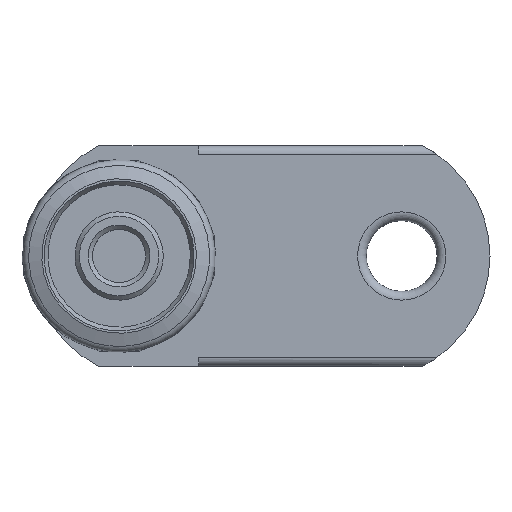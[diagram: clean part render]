
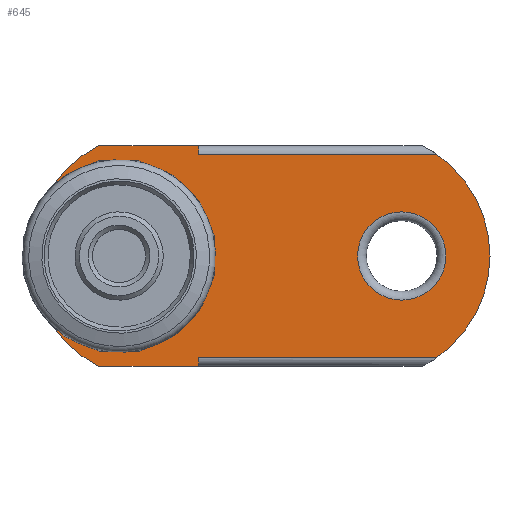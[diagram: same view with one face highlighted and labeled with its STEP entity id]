
A CAD part, left-side view. The second image highlights one B-rep face of the part: STEP entity #645.
In plain terms, the highlighted planar face has unit normal (-1, 0, 0) as drawn and (0, 0, -1) by its records, which use the part's own axes.
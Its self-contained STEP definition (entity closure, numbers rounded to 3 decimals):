
#45=LINE('',#1044,#69);
#48=LINE('',#1051,#72);
#58=LINE('',#1119,#82);
#59=LINE('',#1122,#83);
#61=LINE('',#1126,#85);
#65=LINE('',#1134,#89);
#69=VECTOR('',#821,26.984);
#72=VECTOR('',#828,1.);
#82=VECTOR('',#854,26.984);
#83=VECTOR('',#857,1.);
#85=VECTOR('',#861,11.305);
#89=VECTOR('',#869,11.305);
#126=FACE_BOUND('',#238,.T.);
#127=FACE_BOUND('',#239,.T.);
#183=FACE_OUTER_BOUND('',#237,.T.);
#237=EDGE_LOOP('',(#517,#518,#519,#520,#521,#522,#523,#524));
#238=EDGE_LOOP('',(#525));
#239=EDGE_LOOP('',(#526));
#302=CIRCLE('',#712,14.);
#303=CIRCLE('',#713,14.);
#304=CIRCLE('',#714,5.);
#305=CIRCLE('',#715,3.05);
#341=VERTEX_POINT('',#1029);
#343=VERTEX_POINT('',#1043);
#345=VERTEX_POINT('',#1049);
#357=VERTEX_POINT('',#1102);
#359=VERTEX_POINT('',#1117);
#360=VERTEX_POINT('',#1121);
#361=VERTEX_POINT('',#1125);
#363=VERTEX_POINT('',#1133);
#364=VERTEX_POINT('',#1136);
#365=VERTEX_POINT('',#1138);
#401=EDGE_CURVE('',#343,#341,#45,.T.);
#405=EDGE_CURVE('',#345,#343,#48,.T.);
#421=EDGE_CURVE('',#359,#357,#58,.T.);
#422=EDGE_CURVE('',#359,#360,#59,.T.);
#424=EDGE_CURVE('',#345,#361,#61,.T.);
#428=EDGE_CURVE('',#357,#341,#302,.T.);
#429=EDGE_CURVE('',#363,#360,#65,.T.);
#430=EDGE_CURVE('',#361,#363,#303,.T.);
#431=EDGE_CURVE('',#364,#364,#304,.T.);
#432=EDGE_CURVE('',#365,#365,#305,.T.);
#517=ORIENTED_EDGE('',*,*,#405,.T.);
#518=ORIENTED_EDGE('',*,*,#401,.T.);
#519=ORIENTED_EDGE('',*,*,#428,.F.);
#520=ORIENTED_EDGE('',*,*,#421,.F.);
#521=ORIENTED_EDGE('',*,*,#422,.T.);
#522=ORIENTED_EDGE('',*,*,#429,.F.);
#523=ORIENTED_EDGE('',*,*,#430,.F.);
#524=ORIENTED_EDGE('',*,*,#424,.F.);
#525=ORIENTED_EDGE('',*,*,#431,.F.);
#526=ORIENTED_EDGE('',*,*,#432,.T.);
#617=PLANE('',#711);
#645=ADVANCED_FACE('',(#183,#126,#127),#617,.F.);
#711=AXIS2_PLACEMENT_3D('',#1131,#865,#866);
#712=AXIS2_PLACEMENT_3D('',#1132,#867,#868);
#713=AXIS2_PLACEMENT_3D('',#1135,#870,#871);
#714=AXIS2_PLACEMENT_3D('',#1137,#872,#873);
#715=AXIS2_PLACEMENT_3D('',#1139,#874,#875);
#821=DIRECTION('',(0.,-1.,0.));
#828=DIRECTION('',(-1.,0.,0.));
#854=DIRECTION('',(0.,-1.,0.));
#857=DIRECTION('',(-1.,0.,0.));
#861=DIRECTION('',(0.,1.,0.));
#865=DIRECTION('center_axis',(0.,0.,1.));
#866=DIRECTION('ref_axis',(1.,0.,0.));
#867=DIRECTION('center_axis',(0.,0.,1.));
#868=DIRECTION('ref_axis',(0.893,0.45,0.));
#869=DIRECTION('',(0.,-1.,0.));
#870=DIRECTION('center_axis',(0.,0.,1.));
#871=DIRECTION('ref_axis',(-0.893,-0.45,0.));
#872=DIRECTION('center_axis',(0.,0.,-1.));
#873=DIRECTION('ref_axis',(1.,0.,0.));
#874=DIRECTION('center_axis',(0.,0.,1.));
#875=DIRECTION('ref_axis',(1.,0.,0.));
#1029=CARTESIAN_POINT('',(11.5,-35.984,-5.));
#1043=CARTESIAN_POINT('',(11.5,-9.,-5.));
#1044=CARTESIAN_POINT('',(11.5,-42.,-5.));
#1049=CARTESIAN_POINT('',(12.5,-9.,-5.));
#1051=CARTESIAN_POINT('',(6.097,-9.,-5.));
#1102=CARTESIAN_POINT('',(-11.5,-35.984,-5.));
#1117=CARTESIAN_POINT('',(-11.5,-9.,-5.));
#1119=CARTESIAN_POINT('',(-11.5,-42.,-5.));
#1121=CARTESIAN_POINT('',(-12.5,-9.,-5.));
#1122=CARTESIAN_POINT('',(-6.097,-9.,-5.));
#1125=CARTESIAN_POINT('',(12.5,2.305,-5.));
#1126=CARTESIAN_POINT('',(12.5,2.305,-5.));
#1131=CARTESIAN_POINT('Origin',(0.,-16.,-5.));
#1132=CARTESIAN_POINT('Origin',(0.,-28.,-5.));
#1133=CARTESIAN_POINT('',(-12.5,2.305,-5.));
#1134=CARTESIAN_POINT('',(-12.5,-34.305,-5.));
#1135=CARTESIAN_POINT('Origin',(0.,-4.,-5.));
#1136=CARTESIAN_POINT('',(-5.,-32.,-5.));
#1137=CARTESIAN_POINT('Origin',(0.,-32.,-5.));
#1138=CARTESIAN_POINT('',(-3.05,0.,-5.));
#1139=CARTESIAN_POINT('Origin',(0.,0.,-5.));
